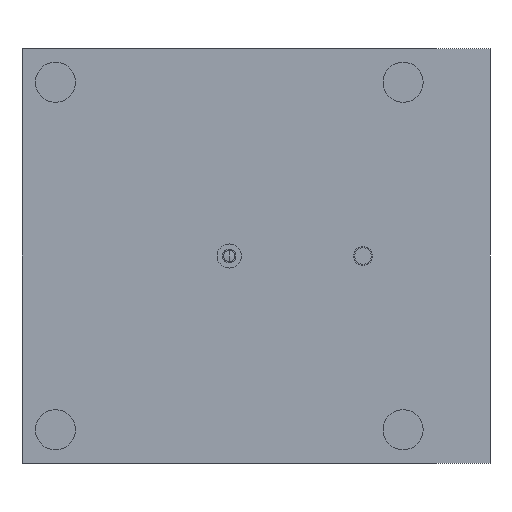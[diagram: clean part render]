
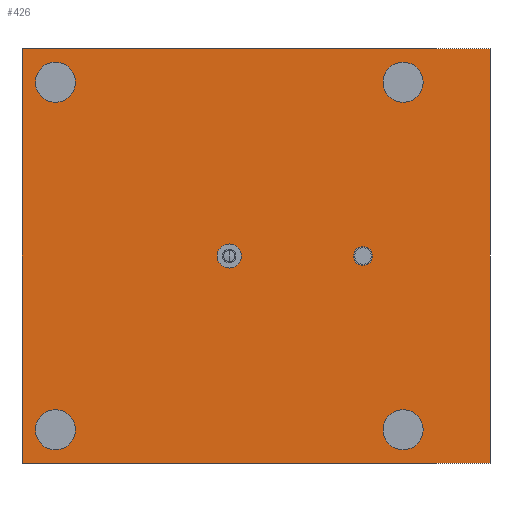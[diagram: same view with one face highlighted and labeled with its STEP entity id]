
A CAD part, front view. The second image highlights one B-rep face of the part: STEP entity #426.
In plain terms, the highlighted planar face has unit normal (0, -1, 0).
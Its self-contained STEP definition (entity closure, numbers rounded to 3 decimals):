
#6=DIRECTION('',(1.,0.,0.));
#7=VECTOR('',#6,350.);
#8=CARTESIAN_POINT('',(-155.,-10.,-155.));
#9=LINE('',#8,#7);
#90=CARTESIAN_POINT('',(-130.,-10.,-130.));
#91=DIRECTION('',(0.,1.,0.));
#92=DIRECTION('',(-1.,0.,0.));
#93=AXIS2_PLACEMENT_3D('',#90,#91,#92);
#95=CARTESIAN_POINT('',(-130.,-10.,-130.));
#96=DIRECTION('',(0.,1.,0.));
#97=DIRECTION('',(1.,0.,0.));
#98=AXIS2_PLACEMENT_3D('',#95,#96,#97);
#100=CARTESIAN_POINT('',(-130.,-10.,130.));
#101=DIRECTION('',(0.,1.,0.));
#102=DIRECTION('',(-1.,0.,0.));
#103=AXIS2_PLACEMENT_3D('',#100,#101,#102);
#105=CARTESIAN_POINT('',(-130.,-10.,130.));
#106=DIRECTION('',(0.,1.,0.));
#107=DIRECTION('',(1.,0.,0.));
#108=AXIS2_PLACEMENT_3D('',#105,#106,#107);
#110=DIRECTION('',(0.,0.,1.));
#111=VECTOR('',#110,310.);
#112=CARTESIAN_POINT('',(-155.,-10.,-155.));
#113=LINE('',#112,#111);
#114=CARTESIAN_POINT('',(0.,-10.,0.));
#115=DIRECTION('',(0.,-1.,0.));
#116=DIRECTION('',(1.,0.,0.));
#117=AXIS2_PLACEMENT_3D('',#114,#115,#116);
#119=CARTESIAN_POINT('',(0.,-10.,0.));
#120=DIRECTION('',(0.,-1.,0.));
#121=DIRECTION('',(-1.,0.,0.));
#122=AXIS2_PLACEMENT_3D('',#119,#120,#121);
#124=CARTESIAN_POINT('',(130.,-10.,130.));
#125=DIRECTION('',(0.,1.,0.));
#126=DIRECTION('',(-1.,0.,0.));
#127=AXIS2_PLACEMENT_3D('',#124,#125,#126);
#129=CARTESIAN_POINT('',(130.,-10.,130.));
#130=DIRECTION('',(0.,1.,0.));
#131=DIRECTION('',(1.,0.,0.));
#132=AXIS2_PLACEMENT_3D('',#129,#130,#131);
#134=CARTESIAN_POINT('',(130.,-10.,-130.));
#135=DIRECTION('',(0.,1.,0.));
#136=DIRECTION('',(-1.,0.,0.));
#137=AXIS2_PLACEMENT_3D('',#134,#135,#136);
#139=CARTESIAN_POINT('',(130.,-10.,-130.));
#140=DIRECTION('',(0.,1.,0.));
#141=DIRECTION('',(1.,0.,0.));
#142=AXIS2_PLACEMENT_3D('',#139,#140,#141);
#144=CARTESIAN_POINT('',(100.,-10.,0.));
#145=DIRECTION('',(0.,1.,0.));
#146=DIRECTION('',(1.,0.,0.));
#147=AXIS2_PLACEMENT_3D('',#144,#145,#146);
#149=CARTESIAN_POINT('',(100.,-10.,0.));
#150=DIRECTION('',(0.,1.,0.));
#151=DIRECTION('',(-1.,0.,0.));
#152=AXIS2_PLACEMENT_3D('',#149,#150,#151);
#178=DIRECTION('',(1.,0.,0.));
#179=VECTOR('',#178,350.);
#180=CARTESIAN_POINT('',(-155.,-10.,155.));
#181=LINE('',#180,#179);
#182=DIRECTION('',(0.,0.,1.));
#183=VECTOR('',#182,310.);
#184=CARTESIAN_POINT('',(195.,-10.,-155.));
#185=LINE('',#184,#183);
#219=CARTESIAN_POINT('',(-155.,-10.,-155.));
#221=VERTEX_POINT('',#219);
#222=CARTESIAN_POINT('',(195.,-10.,-155.));
#223=VERTEX_POINT('',#222);
#227=CARTESIAN_POINT('',(-155.,-10.,155.));
#229=VERTEX_POINT('',#227);
#230=CARTESIAN_POINT('',(195.,-10.,155.));
#231=VERTEX_POINT('',#230);
#234=CARTESIAN_POINT('',(9.,-10.,0.));
#235=CARTESIAN_POINT('',(-9.,-10.,0.));
#236=VERTEX_POINT('',#234);
#237=VERTEX_POINT('',#235);
#242=CARTESIAN_POINT('',(115.,-10.,130.));
#243=CARTESIAN_POINT('',(145.,-10.,130.));
#244=VERTEX_POINT('',#242);
#245=VERTEX_POINT('',#243);
#250=CARTESIAN_POINT('',(-145.,-10.,130.));
#251=CARTESIAN_POINT('',(-115.,-10.,130.));
#252=VERTEX_POINT('',#250);
#253=VERTEX_POINT('',#251);
#258=CARTESIAN_POINT('',(115.,-10.,-130.));
#259=CARTESIAN_POINT('',(145.,-10.,-130.));
#260=VERTEX_POINT('',#258);
#261=VERTEX_POINT('',#259);
#266=CARTESIAN_POINT('',(-145.,-10.,-130.));
#267=CARTESIAN_POINT('',(-115.,-10.,-130.));
#268=VERTEX_POINT('',#266);
#269=VERTEX_POINT('',#267);
#274=CARTESIAN_POINT('',(106.25,-10.,0.));
#275=CARTESIAN_POINT('',(93.75,-10.,0.));
#276=VERTEX_POINT('',#274);
#277=VERTEX_POINT('',#275);
#378=CARTESIAN_POINT('',(-155.,-10.,-155.));
#379=DIRECTION('',(0.,-1.,0.));
#380=DIRECTION('',(1.,0.,0.));
#381=AXIS2_PLACEMENT_3D('',#378,#379,#380);
#382=PLANE('',#381);
#383=ORIENTED_EDGE('',*,*,#289,.F.);
#384=ORIENTED_EDGE('',*,*,#308,.T.);
#386=ORIENTED_EDGE('',*,*,#385,.T.);
#388=ORIENTED_EDGE('',*,*,#387,.F.);
#389=EDGE_LOOP('',(#383,#384,#386,#388));
#390=FACE_OUTER_BOUND('',#389,.F.);
#391=ORIENTED_EDGE('',*,*,#368,.F.);
#393=ORIENTED_EDGE('',*,*,#392,.F.);
#394=EDGE_LOOP('',(#391,#393));
#395=FACE_BOUND('',#394,.F.);
#397=ORIENTED_EDGE('',*,*,#396,.F.);
#399=ORIENTED_EDGE('',*,*,#398,.F.);
#400=EDGE_LOOP('',(#397,#399));
#401=FACE_BOUND('',#400,.F.);
#403=ORIENTED_EDGE('',*,*,#402,.T.);
#405=ORIENTED_EDGE('',*,*,#404,.T.);
#406=EDGE_LOOP('',(#403,#405));
#407=FACE_BOUND('',#406,.F.);
#409=ORIENTED_EDGE('',*,*,#408,.F.);
#411=ORIENTED_EDGE('',*,*,#410,.F.);
#412=EDGE_LOOP('',(#409,#411));
#413=FACE_BOUND('',#412,.F.);
#415=ORIENTED_EDGE('',*,*,#414,.F.);
#417=ORIENTED_EDGE('',*,*,#416,.F.);
#418=EDGE_LOOP('',(#415,#417));
#419=FACE_BOUND('',#418,.F.);
#421=ORIENTED_EDGE('',*,*,#420,.F.);
#423=ORIENTED_EDGE('',*,*,#422,.F.);
#424=EDGE_LOOP('',(#421,#423));
#425=FACE_BOUND('',#424,.F.);
#426=ADVANCED_FACE('',(#390,#395,#401,#407,#413,#419,#425),#382,.T.);
#94=CIRCLE('',#93,15.);
#99=CIRCLE('',#98,15.);
#104=CIRCLE('',#103,15.);
#109=CIRCLE('',#108,15.);
#118=CIRCLE('',#117,9.);
#123=CIRCLE('',#122,9.);
#128=CIRCLE('',#127,15.);
#133=CIRCLE('',#132,15.);
#138=CIRCLE('',#137,15.);
#143=CIRCLE('',#142,15.);
#148=CIRCLE('',#147,6.25);
#153=CIRCLE('',#152,6.25);
#289=EDGE_CURVE('',#221,#223,#9,.T.);
#308=EDGE_CURVE('',#221,#229,#113,.T.);
#368=EDGE_CURVE('',#268,#269,#94,.T.);
#385=EDGE_CURVE('',#229,#231,#181,.T.);
#387=EDGE_CURVE('',#223,#231,#185,.T.);
#392=EDGE_CURVE('',#269,#268,#99,.T.);
#396=EDGE_CURVE('',#252,#253,#104,.T.);
#398=EDGE_CURVE('',#253,#252,#109,.T.);
#402=EDGE_CURVE('',#236,#237,#118,.T.);
#404=EDGE_CURVE('',#237,#236,#123,.T.);
#408=EDGE_CURVE('',#244,#245,#128,.T.);
#410=EDGE_CURVE('',#245,#244,#133,.T.);
#414=EDGE_CURVE('',#260,#261,#138,.T.);
#416=EDGE_CURVE('',#261,#260,#143,.T.);
#420=EDGE_CURVE('',#276,#277,#148,.T.);
#422=EDGE_CURVE('',#277,#276,#153,.T.);
